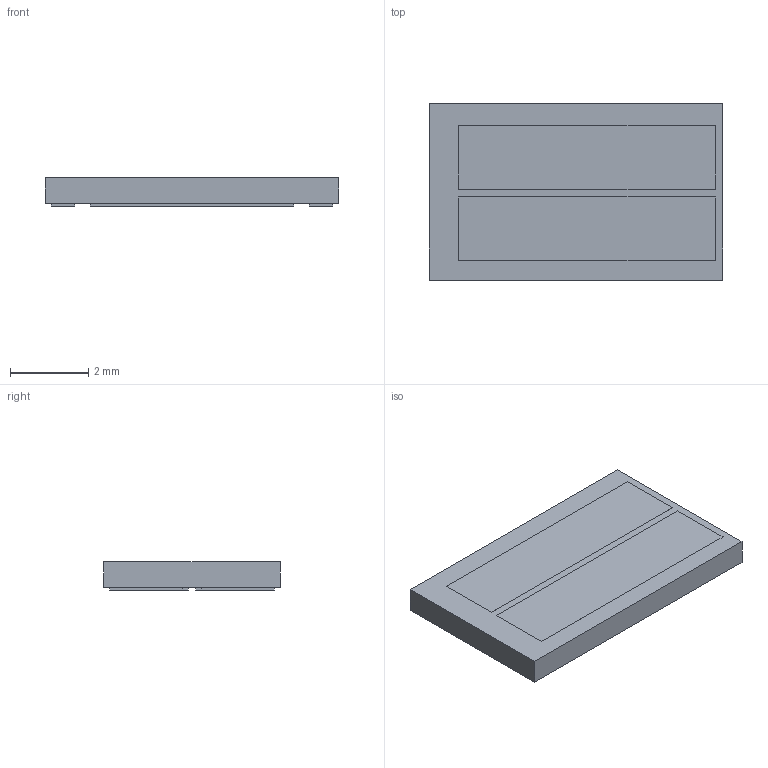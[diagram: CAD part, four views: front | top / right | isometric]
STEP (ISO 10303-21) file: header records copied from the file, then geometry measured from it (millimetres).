
FILE_DESCRIPTION (( 'STEP AP214' ), '1' );
FILE_NAME ('HKL6-C7.STEP', '2019-12-31T01:40:29', ( 'PC' ), ( 'Microsoft' ), 'SwSTEP 2.0', 'SolidWorks 2018', '' );
FILE_SCHEMA (( 'AUTOMOTIVE_DESIGN' ));
Length unit declared in the file: millimetre
Products named in the file (1): HKL6-C7
Bounding box: 7.5 x 4.5 x 0.73 mm (x, y, z)
Volume: 23.8 mm3; surface area: 86.8 mm2
Topology: 1 solids, 1 shells, 52 faces, 126 edges, 84 vertices
Faces by surface type: plane 52
Entity records: 2030 total; most frequent: CARTESIAN_POINT 263, ORIENTED_EDGE 252, DIRECTION 232, EDGE_CURVE 126, VECTOR 126, LINE 126, VERTEX_POINT 84, EDGE_LOOP 60
